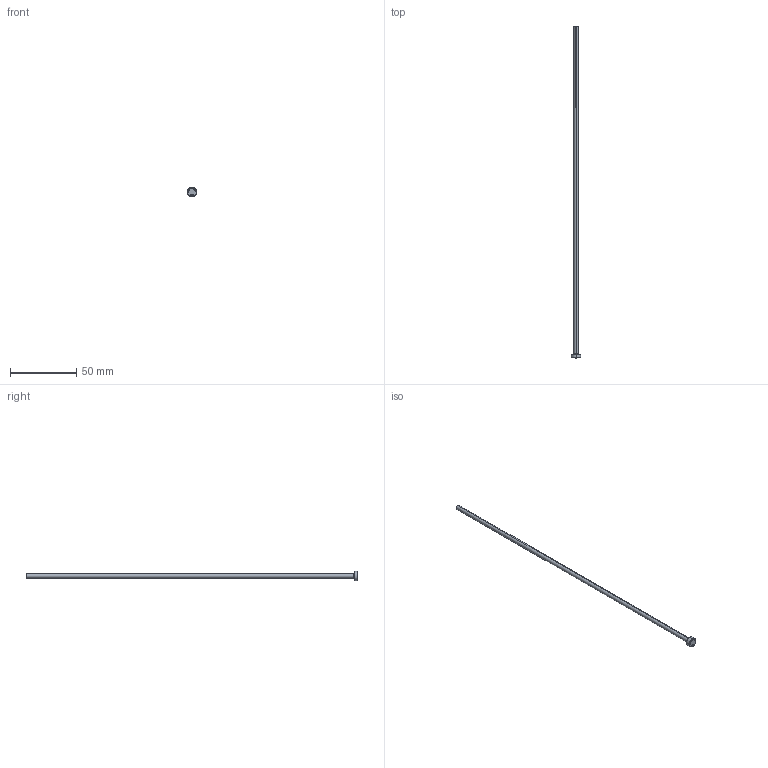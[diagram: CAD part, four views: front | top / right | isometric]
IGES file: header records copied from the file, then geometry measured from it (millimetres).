
Start section: SolidWorks IGES file using analytic representation for surfaces
Global section: file name: G:\MCL\Projetos\Matripeças\Pinos Extradores A DIN 1530\PA03,5250.IGS; native system: SolidWorks 2013; preprocessor: SolidWorks 2013; author: Cleonir; date: 130225.133733; units: millimetre
Bounding box: 7 x 250 x 7 mm (x, y, z)
Surface area: 2871.4 mm2 (no closed solid volume)
Topology: 0 solids, 0 shells, 298 faces, 2175 edges, 2175 vertices
Faces by surface type: bspline 286, revolution 12
